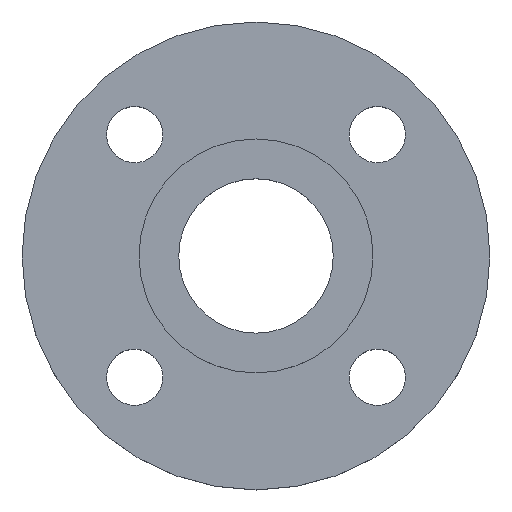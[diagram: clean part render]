
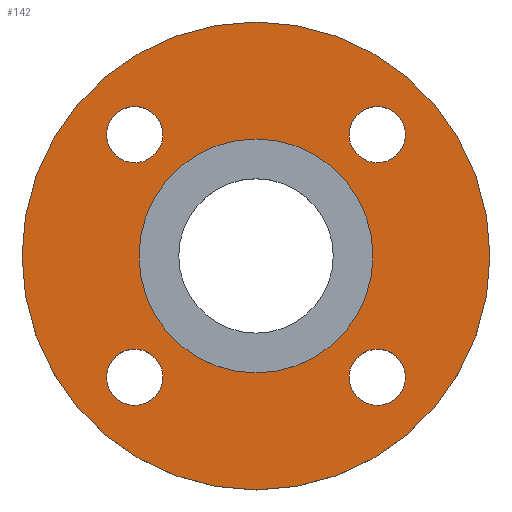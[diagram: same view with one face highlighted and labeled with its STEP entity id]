
A CAD part, top view. The second image highlights one B-rep face of the part: STEP entity #142.
In plain terms, the highlighted planar face has unit normal (0, 0, 1).
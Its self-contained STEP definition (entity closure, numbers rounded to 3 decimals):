
#3 = CIRCLE ( 'NONE', #4, 75. ) ;
#4 = AXIS2_PLACEMENT_3D ( 'NONE', #432, #433, #434 ) ;
#6 = AXIS2_PLACEMENT_3D ( 'NONE', #458, #459, #460 ) ;
#8 = CIRCLE ( 'NONE', #9, 37.5 ) ;
#9 = AXIS2_PLACEMENT_3D ( 'NONE', #461, #462, #463 ) ;
#14 = CIRCLE ( 'NONE', #16, 9. ) ;
#16 = AXIS2_PLACEMENT_3D ( 'NONE', #477, #478, #479 ) ;
#17 = EDGE_CURVE ( 'NONE', #329, #371, #85, .T. ) ;
#39 = CIRCLE ( 'NONE', #40, 9. ) ;
#40 = AXIS2_PLACEMENT_3D ( 'NONE', #514, #515, #516 ) ;
#52 = CIRCLE ( 'NONE', #53, 9. ) ;
#53 = AXIS2_PLACEMENT_3D ( 'NONE', #562, #563, #564 ) ;
#58 = CARTESIAN_POINT ( 'NONE',  ( 47.891, 38.891, -4.5 ) ) ;
#59 = CIRCLE ( 'NONE', #60, 37.5 ) ;
#60 = AXIS2_PLACEMENT_3D ( 'NONE', #581, #583, #584 ) ;
#63 = CIRCLE ( 'NONE', #66, 9. ) ;
#66 = AXIS2_PLACEMENT_3D ( 'NONE', #95, #103, #105 ) ;
#73 = EDGE_CURVE ( 'NONE', #291, #360, #125, .T. ) ;
#84 = AXIS2_PLACEMENT_3D ( 'NONE', #380, #381, #382 ) ;
#85 = CIRCLE ( 'NONE', #84, 9. ) ;
#95 = CARTESIAN_POINT ( 'NONE',  ( -38.891, -38.891, -4.5 ) ) ;
#100 = CARTESIAN_POINT ( 'NONE',  ( -29.891, 38.891, -4.5 ) ) ;
#101 = EDGE_CURVE ( 'NONE', #233, #373, #116, .T. ) ;
#103 = DIRECTION ( 'NONE',  ( 0., 0., -1. ) ) ;
#104 = EDGE_CURVE ( 'NONE', #237, #357, #112, .T. ) ;
#105 = DIRECTION ( 'NONE',  ( 1., 0., 0. ) ) ;
#106 = CARTESIAN_POINT ( 'NONE',  ( -29.891, -38.891, -4.5 ) ) ;
#109 = CIRCLE ( 'NONE', #201, 9. ) ;
#110 = AXIS2_PLACEMENT_3D ( 'NONE', #421, #422, #423 ) ;
#112 = CIRCLE ( 'NONE', #110, 9. ) ;
#113 = AXIS2_PLACEMENT_3D ( 'NONE', #418, #419, #420 ) ;
#116 = CIRCLE ( 'NONE', #113, 75. ) ;
#121 = EDGE_CURVE ( 'NONE', #373, #233, #3, .T. ) ;
#122 = AXIS2_PLACEMENT_3D ( 'NONE', #409, #410, #411 ) ;
#125 = CIRCLE ( 'NONE', #122, 9. ) ;
#142 = ADVANCED_FACE ( 'NONE', ( #451, #452, #453, #454, #455, #456 ), #457, .T. ) ;
#143 = EDGE_CURVE ( 'NONE', #354, #225, #8, .T. ) ;
#150 = CARTESIAN_POINT ( 'NONE',  ( -37.5, 0., -4.5 ) ) ;
#151 = CARTESIAN_POINT ( 'NONE',  ( 47.891, -38.891, -4.5 ) ) ;
#158 = CARTESIAN_POINT ( 'NONE',  ( 29.891, 38.891, -4.5 ) ) ;
#165 = CARTESIAN_POINT ( 'NONE',  ( -47.891, -38.891, -4.5 ) ) ;
#167 = CARTESIAN_POINT ( 'NONE',  ( 75., 0., -4.5 ) ) ;
#179 = CARTESIAN_POINT ( 'NONE',  ( -38.891, 38.891, -4.5 ) ) ;
#181 = DIRECTION ( 'NONE',  ( 0., 0., -1. ) ) ;
#182 = DIRECTION ( 'NONE',  ( 1., 0., 0. ) ) ;
#184 = EDGE_CURVE ( 'NONE', #261, #306, #14, .T. ) ;
#201 = AXIS2_PLACEMENT_3D ( 'NONE', #179, #181, #182 ) ;
#207 = EDGE_CURVE ( 'NONE', #360, #291, #39, .T. ) ;
#225 = VERTEX_POINT ( 'NONE', #547 ) ;
#233 = VERTEX_POINT ( 'NONE', #558 ) ;
#237 = VERTEX_POINT ( 'NONE', #561 ) ;
#244 = EDGE_CURVE ( 'NONE', #357, #237, #52, .T. ) ;
#261 = VERTEX_POINT ( 'NONE', #579 ) ;
#268 = EDGE_CURVE ( 'NONE', #225, #354, #59, .T. ) ;
#291 = VERTEX_POINT ( 'NONE', #58 ) ;
#293 = ORIENTED_EDGE ( 'NONE', *, *, #244, .T. ) ;
#294 = ORIENTED_EDGE ( 'NONE', *, *, #104, .T. ) ;
#295 = ORIENTED_EDGE ( 'NONE', *, *, #17, .T. ) ;
#297 = ORIENTED_EDGE ( 'NONE', *, *, #323, .T. ) ;
#298 = ORIENTED_EDGE ( 'NONE', *, *, #466, .T. ) ;
#299 = ORIENTED_EDGE ( 'NONE', *, *, #184, .T. ) ;
#300 = ORIENTED_EDGE ( 'NONE', *, *, #73, .T. ) ;
#301 = ORIENTED_EDGE ( 'NONE', *, *, #207, .T. ) ;
#302 = ORIENTED_EDGE ( 'NONE', *, *, #143, .T. ) ;
#303 = ORIENTED_EDGE ( 'NONE', *, *, #268, .T. ) ;
#304 = ORIENTED_EDGE ( 'NONE', *, *, #121, .F. ) ;
#305 = ORIENTED_EDGE ( 'NONE', *, *, #101, .F. ) ;
#306 = VERTEX_POINT ( 'NONE', #100 ) ;
#323 = EDGE_CURVE ( 'NONE', #371, #329, #63, .T. ) ;
#329 = VERTEX_POINT ( 'NONE', #106 ) ;
#353 = EDGE_LOOP ( 'NONE', ( #295, #297 ) ) ;
#354 = VERTEX_POINT ( 'NONE', #150 ) ;
#356 = EDGE_LOOP ( 'NONE', ( #298, #299 ) ) ;
#357 = VERTEX_POINT ( 'NONE', #151 ) ;
#359 = EDGE_LOOP ( 'NONE', ( #300, #301 ) ) ;
#360 = VERTEX_POINT ( 'NONE', #158 ) ;
#366 = EDGE_LOOP ( 'NONE', ( #302, #303 ) ) ;
#369 = EDGE_LOOP ( 'NONE', ( #304, #305 ) ) ;
#371 = VERTEX_POINT ( 'NONE', #165 ) ;
#373 = VERTEX_POINT ( 'NONE', #167 ) ;
#379 = EDGE_LOOP ( 'NONE', ( #293, #294 ) ) ;
#380 = CARTESIAN_POINT ( 'NONE',  ( -38.891, -38.891, -4.5 ) ) ;
#381 = DIRECTION ( 'NONE',  ( 0., 0., -1. ) ) ;
#382 = DIRECTION ( 'NONE',  ( 1., 0., 0. ) ) ;
#409 = CARTESIAN_POINT ( 'NONE',  ( 38.891, 38.891, -4.5 ) ) ;
#410 = DIRECTION ( 'NONE',  ( 0., 0., -1. ) ) ;
#411 = DIRECTION ( 'NONE',  ( 1., 0., 0. ) ) ;
#418 = CARTESIAN_POINT ( 'NONE',  ( 0., 0., -4.5 ) ) ;
#419 = DIRECTION ( 'NONE',  ( 0., 0., -1. ) ) ;
#420 = DIRECTION ( 'NONE',  ( -1., 0., 0. ) ) ;
#421 = CARTESIAN_POINT ( 'NONE',  ( 38.891, -38.891, -4.5 ) ) ;
#422 = DIRECTION ( 'NONE',  ( 0., 0., -1. ) ) ;
#423 = DIRECTION ( 'NONE',  ( 1., 0., 0. ) ) ;
#432 = CARTESIAN_POINT ( 'NONE',  ( 0., 0., -4.5 ) ) ;
#433 = DIRECTION ( 'NONE',  ( 0., 0., -1. ) ) ;
#434 = DIRECTION ( 'NONE',  ( -1., 0., 0. ) ) ;
#451 = FACE_BOUND ( 'NONE', #379, .T. ) ;
#452 = FACE_BOUND ( 'NONE', #353, .T. ) ;
#453 = FACE_BOUND ( 'NONE', #356, .T. ) ;
#454 = FACE_BOUND ( 'NONE', #359, .T. ) ;
#455 = FACE_BOUND ( 'NONE', #366, .T. ) ;
#456 = FACE_OUTER_BOUND ( 'NONE', #369, .T. ) ;
#457 = PLANE ( 'NONE',  #6 ) ;
#458 = CARTESIAN_POINT ( 'NONE',  ( 37.5, 0., -4.5 ) ) ;
#459 = DIRECTION ( 'NONE',  ( 0., 0., 1. ) ) ;
#460 = DIRECTION ( 'NONE',  ( 1., 0., 0. ) ) ;
#461 = CARTESIAN_POINT ( 'NONE',  ( 0., 0., -4.5 ) ) ;
#462 = DIRECTION ( 'NONE',  ( 0., 0., -1. ) ) ;
#463 = DIRECTION ( 'NONE',  ( -1., 0., 0. ) ) ;
#466 = EDGE_CURVE ( 'NONE', #306, #261, #109, .T. ) ;
#477 = CARTESIAN_POINT ( 'NONE',  ( -38.891, 38.891, -4.5 ) ) ;
#478 = DIRECTION ( 'NONE',  ( 0., 0., -1. ) ) ;
#479 = DIRECTION ( 'NONE',  ( 1., 0., 0. ) ) ;
#514 = CARTESIAN_POINT ( 'NONE',  ( 38.891, 38.891, -4.5 ) ) ;
#515 = DIRECTION ( 'NONE',  ( 0., 0., -1. ) ) ;
#516 = DIRECTION ( 'NONE',  ( 1., 0., 0. ) ) ;
#547 = CARTESIAN_POINT ( 'NONE',  ( 37.5, 0., -4.5 ) ) ;
#558 = CARTESIAN_POINT ( 'NONE',  ( -75., 0., -4.5 ) ) ;
#561 = CARTESIAN_POINT ( 'NONE',  ( 29.891, -38.891, -4.5 ) ) ;
#562 = CARTESIAN_POINT ( 'NONE',  ( 38.891, -38.891, -4.5 ) ) ;
#563 = DIRECTION ( 'NONE',  ( 0., 0., -1. ) ) ;
#564 = DIRECTION ( 'NONE',  ( 1., 0., 0. ) ) ;
#579 = CARTESIAN_POINT ( 'NONE',  ( -47.891, 38.891, -4.5 ) ) ;
#581 = CARTESIAN_POINT ( 'NONE',  ( 0., 0., -4.5 ) ) ;
#583 = DIRECTION ( 'NONE',  ( 0., 0., -1. ) ) ;
#584 = DIRECTION ( 'NONE',  ( -1., 0., 0. ) ) ;
